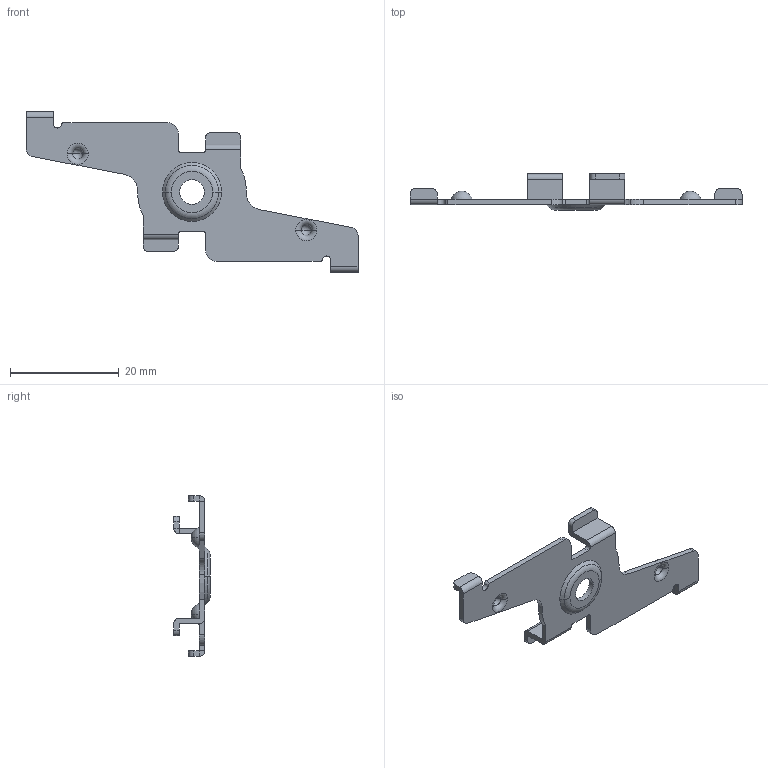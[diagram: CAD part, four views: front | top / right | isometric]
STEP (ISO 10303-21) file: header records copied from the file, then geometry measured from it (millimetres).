
FILE_DESCRIPTION((''),'2;1');
FILE_NAME('GP','2025-03-25T17:36:25',('Administrator'),(''),'CREO PARAMETRIC BY PTC INC, 2020053','CREO PARAMETRIC BY PTC INC, 2020053','');
FILE_SCHEMA(('CONFIG_CONTROL_DESIGN'));
Length unit declared in the file: millimetre
Products named in the file (1): GP
Bounding box: 61 x 6.7 x 29.5 mm (x, y, z)
Volume: 834.9 mm3; surface area: 1888.9 mm2
Topology: 1 solids, 1 shells, 106 faces, 264 edges, 158 vertices
Faces by surface type: plane 52, cylinder 32, torus 10, sphere 8, cone 4
Entity records: 3126 total; most frequent: DIRECTION 576, CARTESIAN_POINT 520, ORIENTED_EDGE 512, EDGE_CURVE 256, AXIS2_PLACEMENT_3D 214, VERTEX_POINT 158, VECTOR 148, LINE 148
